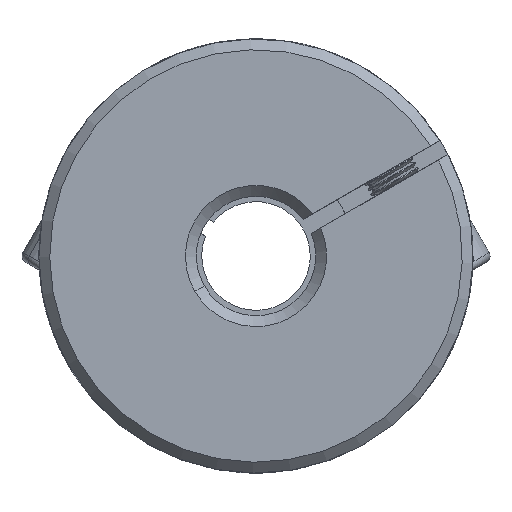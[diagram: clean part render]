
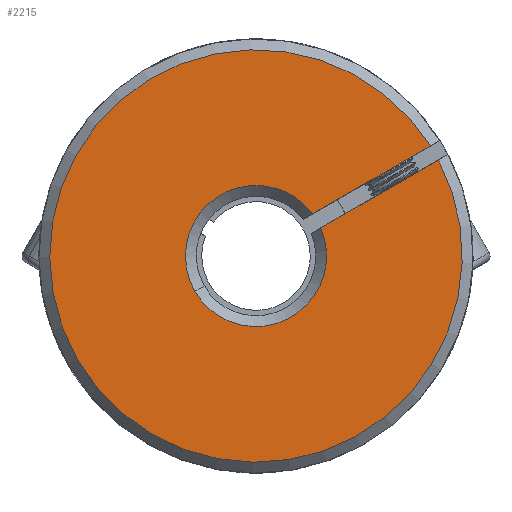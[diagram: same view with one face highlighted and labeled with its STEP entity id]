
A CAD part, front view. The second image highlights one B-rep face of the part: STEP entity #2215.
In plain terms, the highlighted planar face has unit normal (0, -1, 0).
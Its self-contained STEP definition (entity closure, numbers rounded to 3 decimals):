
#213 = ORIENTED_EDGE ( 'NONE', *, *, #3880, .T. ) ;
#498 = VERTEX_POINT ( 'NONE', #13824 ) ;
#716 = VERTEX_POINT ( 'NONE', #4058 ) ;
#893 = CIRCLE ( 'NONE', #10456, 6.5 ) ;
#962 = CARTESIAN_POINT ( 'NONE',  ( 15.367, -31.239, 48.848 ) ) ;
#1081 = ORIENTED_EDGE ( 'NONE', *, *, #5824, .F. ) ;
#1178 = FACE_OUTER_BOUND ( 'NONE', #6173, .T. ) ;
#1632 = VERTEX_POINT ( 'NONE', #4345 ) ;
#2010 = DIRECTION ( 'NONE',  ( 0., 1., 0. ) ) ;
#2215 = ADVANCED_FACE ( 'NONE', ( #1178 ), #4415, .F. ) ;
#2285 = DIRECTION ( 'NONE',  ( 0.5, 0., -0.866 ) ) ;
#3175 = CARTESIAN_POINT ( 'NONE',  ( 2.896, -31.239, 43.375 ) ) ;
#3413 = EDGE_CURVE ( 'NONE', #716, #1632, #13139, .T. ) ;
#3579 = CARTESIAN_POINT ( 'NONE',  ( -7.075, -31.239, 36.748 ) ) ;
#3615 = DIRECTION ( 'NONE',  ( 0., 1., 0. ) ) ;
#3880 = EDGE_CURVE ( 'NONE', #498, #5634, #9750, .T. ) ;
#3891 = VERTEX_POINT ( 'NONE', #962 ) ;
#4058 = CARTESIAN_POINT ( 'NONE',  ( 14.616, -31.239, 50.147 ) ) ;
#4241 = CARTESIAN_POINT ( 'NONE',  ( -1.447, -31.239, 40. ) ) ;
#4345 = CARTESIAN_POINT ( 'NONE',  ( 3.768, -31.239, 43.879 ) ) ;
#4415 = PLANE ( 'NONE',  #12660 ) ;
#5102 = EDGE_CURVE ( 'NONE', #716, #3891, #8704, .T. ) ;
#5148 = DIRECTION ( 'NONE',  ( 0., 1., 0. ) ) ;
#5194 = CARTESIAN_POINT ( 'NONE',  ( -1.447, -31.239, 40. ) ) ;
#5311 = VECTOR ( 'NONE', #8215, 1000. ) ;
#5634 = VERTEX_POINT ( 'NONE', #3579 ) ;
#5824 = EDGE_CURVE ( 'NONE', #498, #3891, #7851, .T. ) ;
#6173 = EDGE_LOOP ( 'NONE', ( #1081, #213, #8803, #10405, #13167 ) ) ;
#6571 = CARTESIAN_POINT ( 'NONE',  ( 52.98, -31.239, 45.743 ) ) ;
#7851 = LINE ( 'NONE', #11406, #5311 ) ;
#8103 = EDGE_CURVE ( 'NONE', #5634, #1632, #893, .T. ) ;
#8215 = DIRECTION ( 'NONE',  ( 0.866, 0., 0.5 ) ) ;
#8704 = CIRCLE ( 'NONE', #13252, 19. ) ;
#8803 = ORIENTED_EDGE ( 'NONE', *, *, #8103, .T. ) ;
#8930 = DIRECTION ( 'NONE',  ( 0.5, 0., -0.866 ) ) ;
#9750 = CIRCLE ( 'NONE', #11772, 6.5 ) ;
#9861 = DIRECTION ( 'NONE',  ( 0., -1., 0. ) ) ;
#10405 = ORIENTED_EDGE ( 'NONE', *, *, #3413, .F. ) ;
#10456 = AXIS2_PLACEMENT_3D ( 'NONE', #5194, #5148, #13773 ) ;
#10833 = CARTESIAN_POINT ( 'NONE',  ( -1.447, -31.239, 40. ) ) ;
#11406 = CARTESIAN_POINT ( 'NONE',  ( 3.646, -31.239, 42.076 ) ) ;
#11759 = DIRECTION ( 'NONE',  ( 0.5, 0., -0.866 ) ) ;
#11772 = AXIS2_PLACEMENT_3D ( 'NONE', #4241, #2010, #11759 ) ;
#11964 = DIRECTION ( 'NONE',  ( -0.866, 0., -0.5 ) ) ;
#12625 = VECTOR ( 'NONE', #11964, 1000. ) ;
#12660 = AXIS2_PLACEMENT_3D ( 'NONE', #6571, #3615, #8930 ) ;
#13139 = LINE ( 'NONE', #3175, #12625 ) ;
#13167 = ORIENTED_EDGE ( 'NONE', *, *, #5102, .T. ) ;
#13252 = AXIS2_PLACEMENT_3D ( 'NONE', #10833, #9861, #2285 ) ;
#13773 = DIRECTION ( 'NONE',  ( 0.5, 0., -0.866 ) ) ;
#13824 = CARTESIAN_POINT ( 'NONE',  ( 4.519, -31.239, 42.581 ) ) ;
